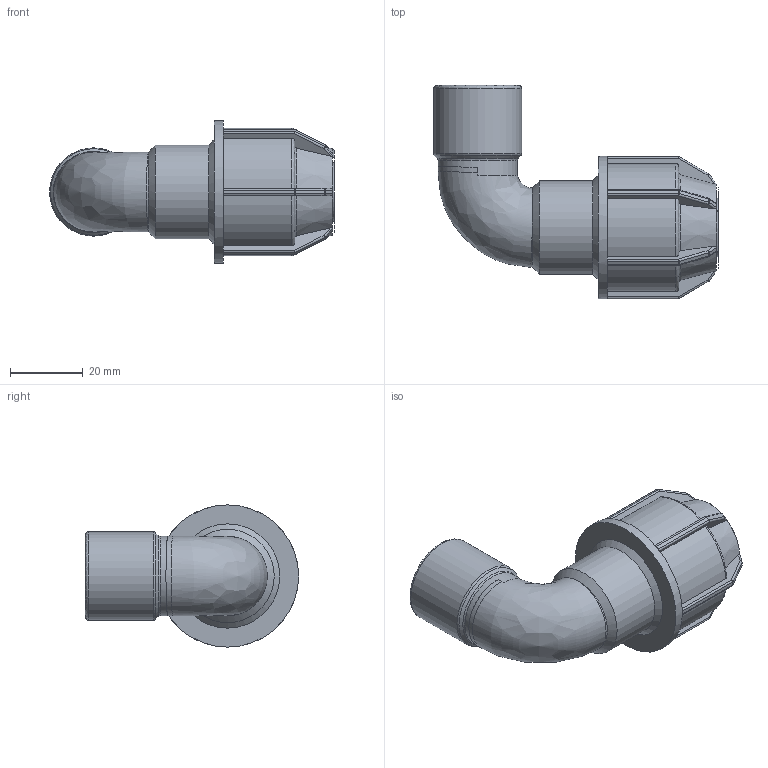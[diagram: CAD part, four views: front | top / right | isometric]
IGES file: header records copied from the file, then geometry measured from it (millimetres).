
Global section: file name: 141500016005.ipt; native system: Autodesk Inventor 2015; preprocessor: unknown; author: KIM; date: 20180409.131142; units: millimetre
Bounding box: 78.11 x 58.5 x 39 mm (x, y, z)
Volume: 36953.1 mm3; surface area: 15774.9 mm2
Topology: 1 solids, 1 shells, 223 faces, 550 edges, 329 vertices
Faces by surface type: plane 103, cylinder 58, sphere 24, revolution 22, cone 9, bspline 7
Full cylindrical faces by diameter (mm): 21.798 x1, 24.22 x1, 25.6 x1, 39 x1
